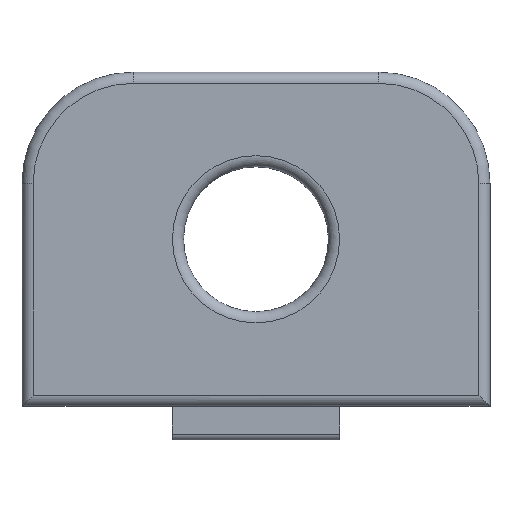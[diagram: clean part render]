
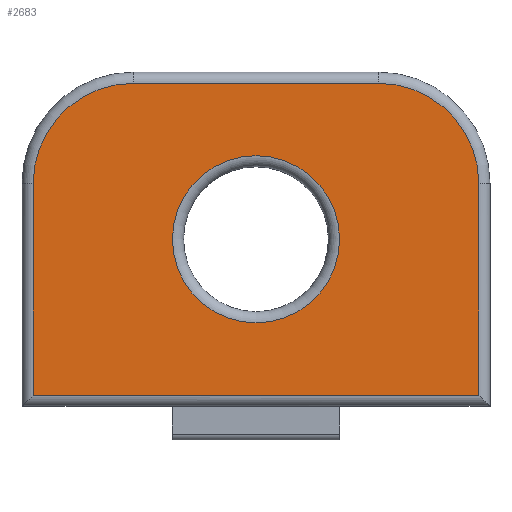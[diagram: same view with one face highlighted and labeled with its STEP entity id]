
A CAD part, front view. The second image highlights one B-rep face of the part: STEP entity #2683.
In plain terms, the highlighted planar face has unit normal (0, -1, 0).
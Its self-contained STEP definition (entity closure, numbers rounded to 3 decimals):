
#31=FACE_BOUND('',#506,.T.);
#199=CIRCLE('',#2821,7.5);
#203=CIRCLE('',#2826,9.);
#204=CIRCLE('',#2827,9.);
#353=FACE_OUTER_BOUND('',#505,.T.);
#505=EDGE_LOOP('',(#2337,#2338,#2339,#2340,#2341,#2342));
#506=EDGE_LOOP('',(#2343));
#758=LINE('',#4911,#1012);
#759=LINE('',#4913,#1013);
#760=LINE('',#4915,#1014);
#761=LINE('',#4919,#1015);
#1012=VECTOR('',#3306,10.);
#1013=VECTOR('',#3307,10.);
#1014=VECTOR('',#3308,10.);
#1015=VECTOR('',#3311,10.);
#1277=VERTEX_POINT('',#4901);
#1280=VERTEX_POINT('',#4909);
#1281=VERTEX_POINT('',#4910);
#1282=VERTEX_POINT('',#4912);
#1283=VERTEX_POINT('',#4914);
#1284=VERTEX_POINT('',#4916);
#1285=VERTEX_POINT('',#4918);
#1648=EDGE_CURVE('',#1277,#1277,#199,.T.);
#1652=EDGE_CURVE('',#1280,#1281,#758,.T.);
#1653=EDGE_CURVE('',#1282,#1280,#759,.T.);
#1654=EDGE_CURVE('',#1283,#1282,#760,.T.);
#1655=EDGE_CURVE('',#1284,#1283,#203,.T.);
#1656=EDGE_CURVE('',#1285,#1284,#761,.T.);
#1657=EDGE_CURVE('',#1281,#1285,#204,.T.);
#2337=ORIENTED_EDGE('',*,*,#1652,.F.);
#2338=ORIENTED_EDGE('',*,*,#1653,.F.);
#2339=ORIENTED_EDGE('',*,*,#1654,.F.);
#2340=ORIENTED_EDGE('',*,*,#1655,.F.);
#2341=ORIENTED_EDGE('',*,*,#1656,.F.);
#2342=ORIENTED_EDGE('',*,*,#1657,.F.);
#2343=ORIENTED_EDGE('',*,*,#1648,.F.);
#2554=PLANE('',#2825);
#2683=ADVANCED_FACE('',(#353,#31),#2554,.F.);
#2821=AXIS2_PLACEMENT_3D('',#4902,#3296,#3297);
#2825=AXIS2_PLACEMENT_3D('',#4908,#3304,#3305);
#2826=AXIS2_PLACEMENT_3D('',#4917,#3309,#3310);
#2827=AXIS2_PLACEMENT_3D('',#4920,#3312,#3313);
#3296=DIRECTION('center_axis',(0.,-1.,0.));
#3297=DIRECTION('ref_axis',(1.,0.,0.));
#3304=DIRECTION('center_axis',(0.,1.,0.));
#3305=DIRECTION('ref_axis',(1.,0.,0.));
#3306=DIRECTION('',(0.,0.,1.));
#3307=DIRECTION('',(-1.,0.,0.));
#3308=DIRECTION('',(0.,0.,-1.));
#3309=DIRECTION('center_axis',(0.,1.,0.));
#3310=DIRECTION('ref_axis',(0.707,0.,0.707));
#3311=DIRECTION('',(1.,0.,0.));
#3312=DIRECTION('center_axis',(0.,1.,0.));
#3313=DIRECTION('ref_axis',(-0.707,0.,0.707));
#4901=CARTESIAN_POINT('',(-6.814,58.1,62.7));
#4902=CARTESIAN_POINT('Origin',(-6.814,58.1,70.2));
#4908=CARTESIAN_POINT('Origin',(-6.814,58.1,70.2));
#4909=CARTESIAN_POINT('',(-26.814,58.1,56.2));
#4910=CARTESIAN_POINT('',(-26.814,58.1,75.2));
#4911=CARTESIAN_POINT('',(-26.814,58.1,62.7));
#4912=CARTESIAN_POINT('',(13.186,58.1,56.2));
#4913=CARTESIAN_POINT('',(3.686,58.1,56.2));
#4914=CARTESIAN_POINT('',(13.186,58.1,75.2));
#4915=CARTESIAN_POINT('',(13.186,58.1,72.7));
#4916=CARTESIAN_POINT('',(4.186,58.1,84.2));
#4917=CARTESIAN_POINT('Origin',(4.186,58.1,75.2));
#4918=CARTESIAN_POINT('',(-17.814,58.1,84.2));
#4919=CARTESIAN_POINT('',(-12.314,58.1,84.2));
#4920=CARTESIAN_POINT('Origin',(-17.814,58.1,75.2));
